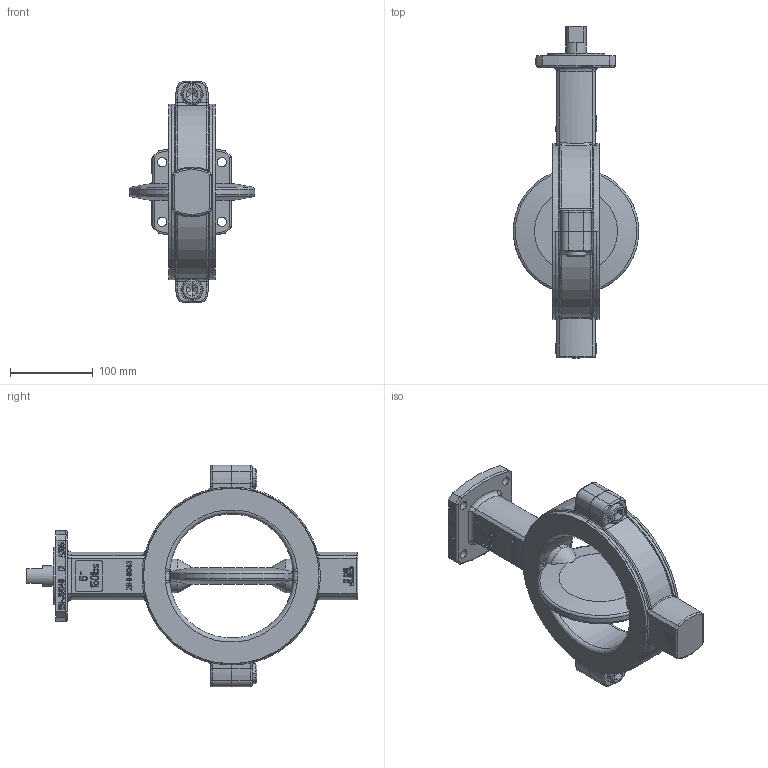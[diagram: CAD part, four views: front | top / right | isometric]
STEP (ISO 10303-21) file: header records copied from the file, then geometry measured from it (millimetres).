
FILE_DESCRIPTION((''),'2;1');
FILE_NAME('9520-00-5128_A_SW0003','2014-03-31T',('sveneman'),(''),'PRO/ENGINEER BY PARAMETRIC TECHNOLOGY CORPORATION, 2011040','PRO/ENGINEER BY PARAMETRIC TECHNOLOGY CORPORATION, 2011040','');
FILE_SCHEMA(('CONFIG_CONTROL_DESIGN'));
Products named in the file (1): 9520-00-5128_A_SW0003
Bounding box: 151.31 x 401 x 268 mm (x, y, z)
Volume: 1869017.5 mm3; surface area: 285104 mm2
Topology: 1 solids, 2 shells, 2825 faces, 7869 edges, 5163 vertices
Faces by surface type: plane 2412, cylinder 157, bspline 142, torus 70, cone 30, extrusion 8, sphere 6
Entity records: 95582 total; most frequent: CARTESIAN_POINT 24146, ORIENTED_EDGE 15726, DIRECTION 13229, EDGE_CURVE 7863, VECTOR 6923, LINE 6915, VERTEX_POINT 5163, AXIS2_PLACEMENT_3D 3153
